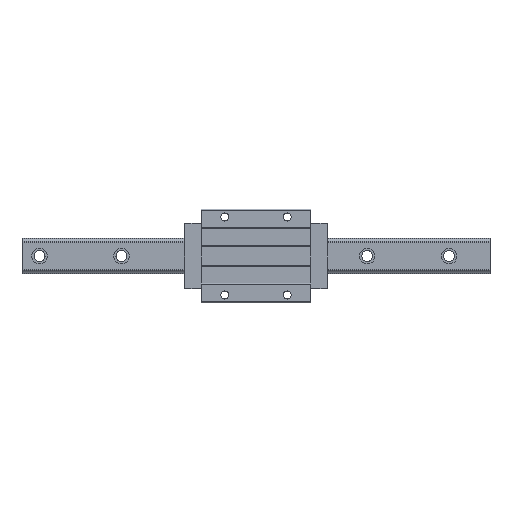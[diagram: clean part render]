
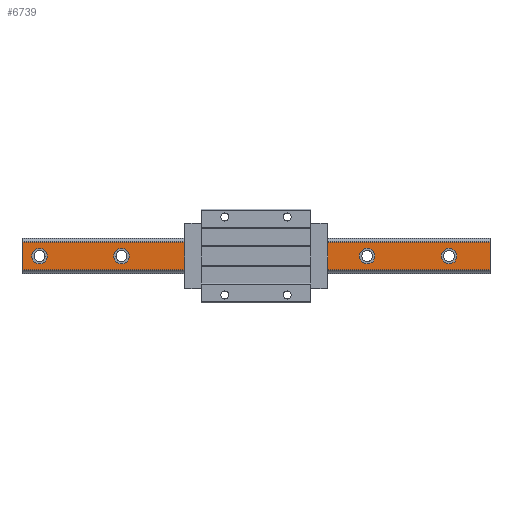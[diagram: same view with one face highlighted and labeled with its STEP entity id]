
A CAD part, top view. The second image highlights one B-rep face of the part: STEP entity #6739.
In plain terms, the highlighted planar face has unit normal (0, 0, 1).
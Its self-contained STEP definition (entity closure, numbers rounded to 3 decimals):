
#1 = CIRCLE ( 'NONE', #6118, 10. ) ;
#51 = CARTESIAN_POINT ( 'NONE',  ( 247.5, 0., 32. ) ) ;
#87 = EDGE_LOOP ( 'NONE', ( #7348, #224 ) ) ;
#104 = CARTESIAN_POINT ( 'NONE',  ( 300., -17.738, 32. ) ) ;
#223 = AXIS2_PLACEMENT_3D ( 'NONE', #5321, #2550, #3580 ) ;
#224 = ORIENTED_EDGE ( 'NONE', *, *, #1949, .F. ) ;
#233 = AXIS2_PLACEMENT_3D ( 'NONE', #51, #7358, #4518 ) ;
#312 = DIRECTION ( 'NONE',  ( 1., 0., 0. ) ) ;
#441 = ORIENTED_EDGE ( 'NONE', *, *, #7300, .F. ) ;
#446 = DIRECTION ( 'NONE',  ( 1., 0., 0. ) ) ;
#489 = CIRCLE ( 'NONE', #5532, 10. ) ;
#522 = DIRECTION ( 'NONE',  ( 1., 0., 0. ) ) ;
#565 = CIRCLE ( 'NONE', #3927, 10. ) ;
#570 = VERTEX_POINT ( 'NONE', #4499 ) ;
#575 = DIRECTION ( 'NONE',  ( 0., 0., 1. ) ) ;
#625 = FACE_BOUND ( 'NONE', #3456, .T. ) ;
#683 = DIRECTION ( 'NONE',  ( 0., 0., 1. ) ) ;
#692 = LINE ( 'NONE', #6447, #1723 ) ;
#721 = ORIENTED_EDGE ( 'NONE', *, *, #1648, .F. ) ;
#759 = VERTEX_POINT ( 'NONE', #1310 ) ;
#814 = CIRCLE ( 'NONE', #4049, 10. ) ;
#1132 = CARTESIAN_POINT ( 'NONE',  ( -172.5, 0., 32. ) ) ;
#1310 = CARTESIAN_POINT ( 'NONE',  ( 152.5, 0., 32. ) ) ;
#1352 = CARTESIAN_POINT ( 'NONE',  ( 37.5, 0., 32. ) ) ;
#1386 = DIRECTION ( 'NONE',  ( 1., 0., 0. ) ) ;
#1479 = EDGE_CURVE ( 'NONE', #7346, #6751, #565, .T. ) ;
#1632 = DIRECTION ( 'NONE',  ( 0., 0., 1. ) ) ;
#1648 = EDGE_CURVE ( 'NONE', #5495, #759, #814, .T. ) ;
#1723 = VECTOR ( 'NONE', #3584, 1000. ) ;
#1756 = DIRECTION ( 'NONE',  ( 0., -1., 0. ) ) ;
#1878 = EDGE_CURVE ( 'NONE', #759, #5495, #6813, .T. ) ;
#1886 = LINE ( 'NONE', #3620, #4008 ) ;
#1889 = DIRECTION ( 'NONE',  ( 0., -1., 0. ) ) ;
#1916 = CARTESIAN_POINT ( 'NONE',  ( -162.5, 0., 32. ) ) ;
#1949 = EDGE_CURVE ( 'NONE', #2489, #570, #1, .T. ) ;
#2013 = VERTEX_POINT ( 'NONE', #1916 ) ;
#2059 = EDGE_CURVE ( 'NONE', #4350, #2093, #5298, .T. ) ;
#2088 = ORIENTED_EDGE ( 'NONE', *, *, #3720, .F. ) ;
#2093 = VERTEX_POINT ( 'NONE', #3375 ) ;
#2121 = CARTESIAN_POINT ( 'NONE',  ( -77.5, 0., 32. ) ) ;
#2156 = CARTESIAN_POINT ( 'NONE',  ( -182.5, 0., 32. ) ) ;
#2162 = CIRCLE ( 'NONE', #6384, 10. ) ;
#2336 = FACE_BOUND ( 'NONE', #87, .T. ) ;
#2373 = FACE_BOUND ( 'NONE', #7158, .T. ) ;
#2432 = CARTESIAN_POINT ( 'NONE',  ( 142.5, 0., 32. ) ) ;
#2436 = VECTOR ( 'NONE', #1889, 1000. ) ;
#2489 = VERTEX_POINT ( 'NONE', #6228 ) ;
#2544 = DIRECTION ( 'NONE',  ( 1., 0., 0. ) ) ;
#2547 = ORIENTED_EDGE ( 'NONE', *, *, #4334, .F. ) ;
#2550 = DIRECTION ( 'NONE',  ( 0., 0., 1. ) ) ;
#2610 = VECTOR ( 'NONE', #1756, 1000. ) ;
#2655 = CARTESIAN_POINT ( 'NONE',  ( -300., 17.738, 32. ) ) ;
#2658 = VERTEX_POINT ( 'NONE', #104 ) ;
#2698 = DIRECTION ( 'NONE',  ( 0., 0., 1. ) ) ;
#2852 = DIRECTION ( 'NONE',  ( 1., 0., 0. ) ) ;
#2857 = FACE_BOUND ( 'NONE', #5425, .T. ) ;
#2932 = PLANE ( 'NONE',  #6775 ) ;
#2961 = CIRCLE ( 'NONE', #223, 10. ) ;
#2975 = DIRECTION ( 'NONE',  ( 1., 0., 0. ) ) ;
#2987 = AXIS2_PLACEMENT_3D ( 'NONE', #1132, #575, #2852 ) ;
#3006 = CARTESIAN_POINT ( 'NONE',  ( 300., -17.738, 32. ) ) ;
#3013 = EDGE_CURVE ( 'NONE', #3610, #2013, #5050, .T. ) ;
#3150 = CIRCLE ( 'NONE', #4127, 10. ) ;
#3249 = CARTESIAN_POINT ( 'NONE',  ( -57.5, 0., 32. ) ) ;
#3262 = VERTEX_POINT ( 'NONE', #2655 ) ;
#3375 = CARTESIAN_POINT ( 'NONE',  ( 237.5, 0., 32. ) ) ;
#3398 = DIRECTION ( 'NONE',  ( 0., 0., -1. ) ) ;
#3456 = EDGE_LOOP ( 'NONE', ( #441, #2088 ) ) ;
#3477 = FACE_BOUND ( 'NONE', #5972, .T. ) ;
#3512 = FACE_OUTER_BOUND ( 'NONE', #4431, .T. ) ;
#3533 = ORIENTED_EDGE ( 'NONE', *, *, #4612, .F. ) ;
#3580 = DIRECTION ( 'NONE',  ( 1., 0., 0. ) ) ;
#3584 = DIRECTION ( 'NONE',  ( -1., 0., 0. ) ) ;
#3593 = CARTESIAN_POINT ( 'NONE',  ( 132.5, 0., 32. ) ) ;
#3610 = VERTEX_POINT ( 'NONE', #2156 ) ;
#3620 = CARTESIAN_POINT ( 'NONE',  ( 300., -17.738, 32. ) ) ;
#3691 = DIRECTION ( 'NONE',  ( 0., 0., 1. ) ) ;
#3720 = EDGE_CURVE ( 'NONE', #5195, #5226, #2162, .T. ) ;
#3744 = EDGE_CURVE ( 'NONE', #6751, #7346, #489, .T. ) ;
#3833 = CARTESIAN_POINT ( 'NONE',  ( -267.5, 0., 32. ) ) ;
#3927 = AXIS2_PLACEMENT_3D ( 'NONE', #5497, #3691, #312 ) ;
#3986 = ORIENTED_EDGE ( 'NONE', *, *, #7361, .F. ) ;
#3995 = DIRECTION ( 'NONE',  ( 1., 0., 0. ) ) ;
#3999 = DIRECTION ( 'NONE',  ( 0., 1., 0. ) ) ;
#4008 = VECTOR ( 'NONE', #5878, 1000. ) ;
#4049 = AXIS2_PLACEMENT_3D ( 'NONE', #5052, #2698, #522 ) ;
#4056 = LINE ( 'NONE', #5196, #2610 ) ;
#4111 = CARTESIAN_POINT ( 'NONE',  ( -300., -17.738, 32. ) ) ;
#4127 = AXIS2_PLACEMENT_3D ( 'NONE', #6814, #6262, #3995 ) ;
#4181 = AXIS2_PLACEMENT_3D ( 'NONE', #2432, #683, #2544 ) ;
#4301 = EDGE_CURVE ( 'NONE', #4992, #3262, #692, .T. ) ;
#4334 = EDGE_CURVE ( 'NONE', #2658, #6651, #1886, .T. ) ;
#4336 = ORIENTED_EDGE ( 'NONE', *, *, #1479, .F. ) ;
#4350 = VERTEX_POINT ( 'NONE', #4953 ) ;
#4431 = EDGE_LOOP ( 'NONE', ( #7068, #2547, #3533, #6097 ) ) ;
#4467 = EDGE_CURVE ( 'NONE', #2013, #3610, #3150, .T. ) ;
#4499 = CARTESIAN_POINT ( 'NONE',  ( 47.5, 0., 32. ) ) ;
#4518 = DIRECTION ( 'NONE',  ( 1., 0., 0. ) ) ;
#4612 = EDGE_CURVE ( 'NONE', #4992, #2658, #5363, .T. ) ;
#4648 = FACE_BOUND ( 'NONE', #6571, .T. ) ;
#4652 = DIRECTION ( 'NONE',  ( 1., 0., 0. ) ) ;
#4770 = ORIENTED_EDGE ( 'NONE', *, *, #3013, .F. ) ;
#4953 = CARTESIAN_POINT ( 'NONE',  ( 257.5, 0., 32. ) ) ;
#4963 = ORIENTED_EDGE ( 'NONE', *, *, #2059, .F. ) ;
#4992 = VERTEX_POINT ( 'NONE', #5380 ) ;
#5050 = CIRCLE ( 'NONE', #2987, 10. ) ;
#5052 = CARTESIAN_POINT ( 'NONE',  ( 142.5, 0., 32. ) ) ;
#5077 = CARTESIAN_POINT ( 'NONE',  ( 247.5, 0., 32. ) ) ;
#5101 = CARTESIAN_POINT ( 'NONE',  ( -287.5, 0., 32. ) ) ;
#5195 = VERTEX_POINT ( 'NONE', #2121 ) ;
#5196 = CARTESIAN_POINT ( 'NONE',  ( -300., -17.738, 32. ) ) ;
#5226 = VERTEX_POINT ( 'NONE', #3249 ) ;
#5249 = CARTESIAN_POINT ( 'NONE',  ( 300., -17.738, 32. ) ) ;
#5296 = CARTESIAN_POINT ( 'NONE',  ( -67.5, 0., 32. ) ) ;
#5298 = CIRCLE ( 'NONE', #6608, 10. ) ;
#5321 = CARTESIAN_POINT ( 'NONE',  ( 37.5, 0., 32. ) ) ;
#5363 = LINE ( 'NONE', #3006, #2436 ) ;
#5380 = CARTESIAN_POINT ( 'NONE',  ( 300., 17.738, 32. ) ) ;
#5425 = EDGE_LOOP ( 'NONE', ( #6213, #4770 ) ) ;
#5455 = ORIENTED_EDGE ( 'NONE', *, *, #3744, .F. ) ;
#5495 = VERTEX_POINT ( 'NONE', #3593 ) ;
#5497 = CARTESIAN_POINT ( 'NONE',  ( -277.5, 0., 32. ) ) ;
#5532 = AXIS2_PLACEMENT_3D ( 'NONE', #6933, #6897, #2975 ) ;
#5747 = CIRCLE ( 'NONE', #7410, 10. ) ;
#5848 = DIRECTION ( 'NONE',  ( 0., 0., 1. ) ) ;
#5878 = DIRECTION ( 'NONE',  ( -1., 0., 0. ) ) ;
#5972 = EDGE_LOOP ( 'NONE', ( #6649, #721 ) ) ;
#6097 = ORIENTED_EDGE ( 'NONE', *, *, #4301, .T. ) ;
#6118 = AXIS2_PLACEMENT_3D ( 'NONE', #1352, #6544, #1386 ) ;
#6213 = ORIENTED_EDGE ( 'NONE', *, *, #4467, .F. ) ;
#6228 = CARTESIAN_POINT ( 'NONE',  ( 27.5, 0., 32. ) ) ;
#6262 = DIRECTION ( 'NONE',  ( 0., 0., 1. ) ) ;
#6384 = AXIS2_PLACEMENT_3D ( 'NONE', #5296, #5848, #4652 ) ;
#6447 = CARTESIAN_POINT ( 'NONE',  ( 300., 17.738, 32. ) ) ;
#6474 = CIRCLE ( 'NONE', #233, 10. ) ;
#6544 = DIRECTION ( 'NONE',  ( 0., 0., 1. ) ) ;
#6571 = EDGE_LOOP ( 'NONE', ( #4336, #5455 ) ) ;
#6608 = AXIS2_PLACEMENT_3D ( 'NONE', #5077, #1632, #6681 ) ;
#6621 = CARTESIAN_POINT ( 'NONE',  ( -67.5, 0., 32. ) ) ;
#6649 = ORIENTED_EDGE ( 'NONE', *, *, #1878, .F. ) ;
#6651 = VERTEX_POINT ( 'NONE', #4111 ) ;
#6653 = DIRECTION ( 'NONE',  ( 0., 0., 1. ) ) ;
#6681 = DIRECTION ( 'NONE',  ( 1., 0., 0. ) ) ;
#6739 = ADVANCED_FACE ( 'NONE', ( #2373, #3477, #2336, #625, #2857, #4648, #3512 ), #2932, .F. ) ;
#6751 = VERTEX_POINT ( 'NONE', #5101 ) ;
#6775 = AXIS2_PLACEMENT_3D ( 'NONE', #5249, #3398, #3999 ) ;
#6813 = CIRCLE ( 'NONE', #4181, 10. ) ;
#6814 = CARTESIAN_POINT ( 'NONE',  ( -172.5, 0., 32. ) ) ;
#6897 = DIRECTION ( 'NONE',  ( 0., 0., 1. ) ) ;
#6933 = CARTESIAN_POINT ( 'NONE',  ( -277.5, 0., 32. ) ) ;
#7068 = ORIENTED_EDGE ( 'NONE', *, *, #7402, .T. ) ;
#7128 = EDGE_CURVE ( 'NONE', #570, #2489, #2961, .T. ) ;
#7158 = EDGE_LOOP ( 'NONE', ( #4963, #3986 ) ) ;
#7300 = EDGE_CURVE ( 'NONE', #5226, #5195, #5747, .T. ) ;
#7346 = VERTEX_POINT ( 'NONE', #3833 ) ;
#7348 = ORIENTED_EDGE ( 'NONE', *, *, #7128, .F. ) ;
#7358 = DIRECTION ( 'NONE',  ( 0., 0., 1. ) ) ;
#7361 = EDGE_CURVE ( 'NONE', #2093, #4350, #6474, .T. ) ;
#7402 = EDGE_CURVE ( 'NONE', #3262, #6651, #4056, .T. ) ;
#7410 = AXIS2_PLACEMENT_3D ( 'NONE', #6621, #6653, #446 ) ;
